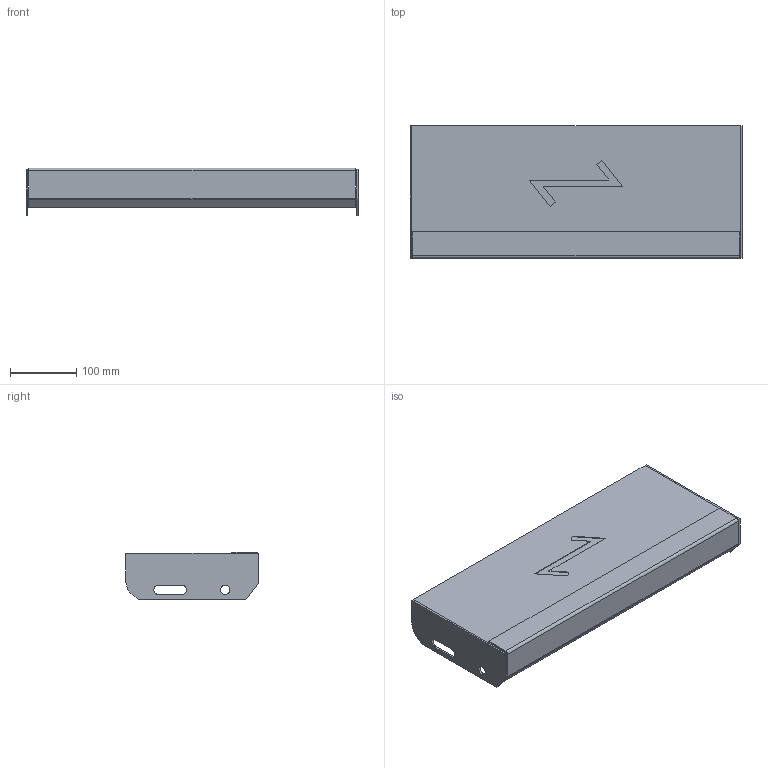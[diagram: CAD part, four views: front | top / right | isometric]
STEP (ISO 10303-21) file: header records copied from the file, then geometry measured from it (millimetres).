
FILE_DESCRIPTION (( 'STEP AP203' ), '1' );
FILE_NAME ('StegTH6-S-nya_steget-500x200.STEP', '2020-03-04T07:41:04', ( '' ), ( '' ), 'SwSTEP 2.0', 'SolidWorks 2019', '' );
FILE_SCHEMA (( 'CONFIG_CONTROL_DESIGN' ));
Length unit declared in the file: millimetre
Products named in the file (5): SW0000039391; SW0000038777; SW0000039237; SW0000038700; StegTH6-S-nya_steget-500x200
Assembly tree (5 placements, depth 3):
  StegTH6-S-nya_steget-500x200
    SW0000039391
      SW0000038777
      SW0000039237
      SW0000038700  x2
Bounding box: 500 x 200 x 72 mm (x, y, z)
Volume: 1890335.2 mm3; surface area: 353103.6 mm2
Topology: 4 solids, 4 shells, 67 faces, 158 edges, 100 vertices
Faces by surface type: plane 51, cylinder 16
Entity records: 2002 total; most frequent: DIRECTION 261, CARTESIAN_POINT 254, ORIENTED_EDGE 238, EDGE_CURVE 119, VECTOR 99, LINE 99, AXIS2_PLACEMENT_3D 81, VERTEX_POINT 74
